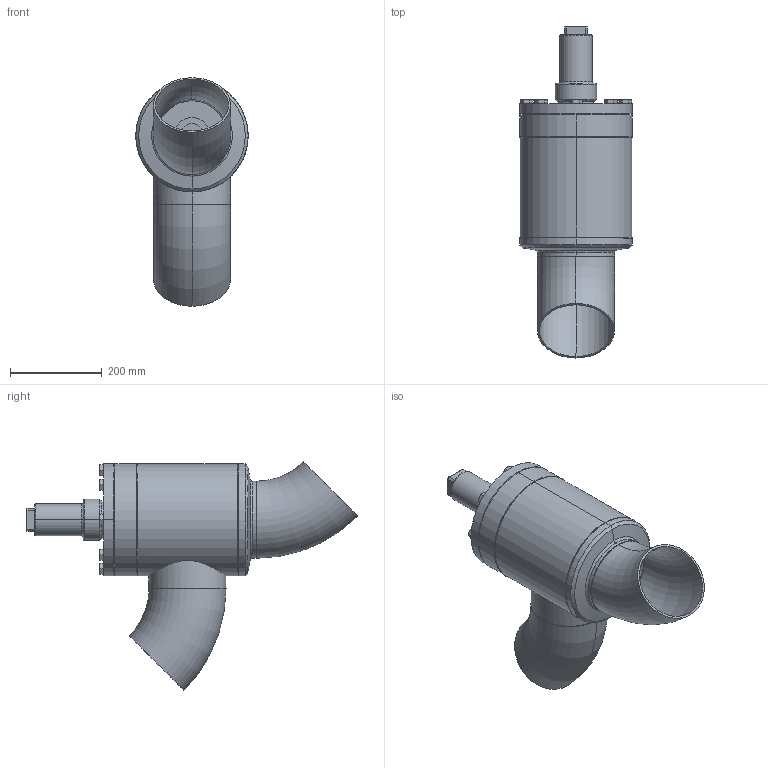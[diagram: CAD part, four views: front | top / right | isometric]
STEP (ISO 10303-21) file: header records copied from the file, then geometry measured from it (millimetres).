
FILE_DESCRIPTION (( 'STEP AP214' ), '1' );
FILE_NAME ('HRAR22300D21-DN150_R1_PS40.STEP', '2006-04-27T12:34:20', ( 'Herr Grams' ), ( 'AWP GmbH' ), 'SwSTEP 2.0', 'SolidWorks 2002296', '' );
FILE_SCHEMA (( 'AUTOMOTIVE_DESIGN' ));
Length unit declared in the file: millimetre
Products named in the file (15): HRAR22300D21-DN150_R1_PS40; Kappe16402_DN125-150_Standard; AVR26300E21_Deck+Schr-DN150_Standard; Deckel26300E21-DN150_Standard; Sechskantschraube-DIN933_M16x 45; Gehäuse-kpl16300-DN150_R1_Standard; Kopfstück16300-DN150_Standard; Gehäuse16300-DN150_Standard; bead-DN150-2_Standard; Rohrbogen 45°_Rohrbogen-DN150-45°; Rohrstutzen-A16300-DN150_R1_Standard; Boden16300-DN150_Standard; bead-DN150-3_Standard; bead-DN150-4_Standard; bead-DN150-1_Standard
Assembly tree (24 placements, depth 3):
  HRAR22300D21-DN150_R1_PS40
    Kappe16402_DN125-150_Standard
    AVR26300E21_Deck+Schr-DN150_Standard
      Sechskantschraube-DIN933_M16x 45  x8
      Deckel26300E21-DN150_Standard
    Gehäuse-kpl16300-DN150_R1_Standard
      bead-DN150-2_Standard
      Kopfstück16300-DN150_Standard
      bead-DN150-3_Standard
      Gehäuse16300-DN150_Standard
      bead-DN150-4_Standard  x2
      Rohrbogen 45°_Rohrbogen-DN150-45°  x2
      Rohrstutzen-A16300-DN150_R1_Standard
      bead-DN150-1_Standard  x2
      Boden16300-DN150_Standard
Bounding box: 245.28 x 724.93 x 499.01 mm (x, y, z)
Volume: 6806998.2 mm3; surface area: 1392581 mm2
Topology: 22 solids, 22 shells, 380 faces, 800 edges, 482 vertices
Faces by surface type: cone 126, plane 119, cylinder 91, bspline 24, torus 20
Entity records: 8653 total; most frequent: CARTESIAN_POINT 3674, DIRECTION 904, ORIENTED_EDGE 800, EDGE_CURVE 400, AXIS2_PLACEMENT_3D 396, VERTEX_POINT 248, EDGE_LOOP 234, CIRCLE 196
